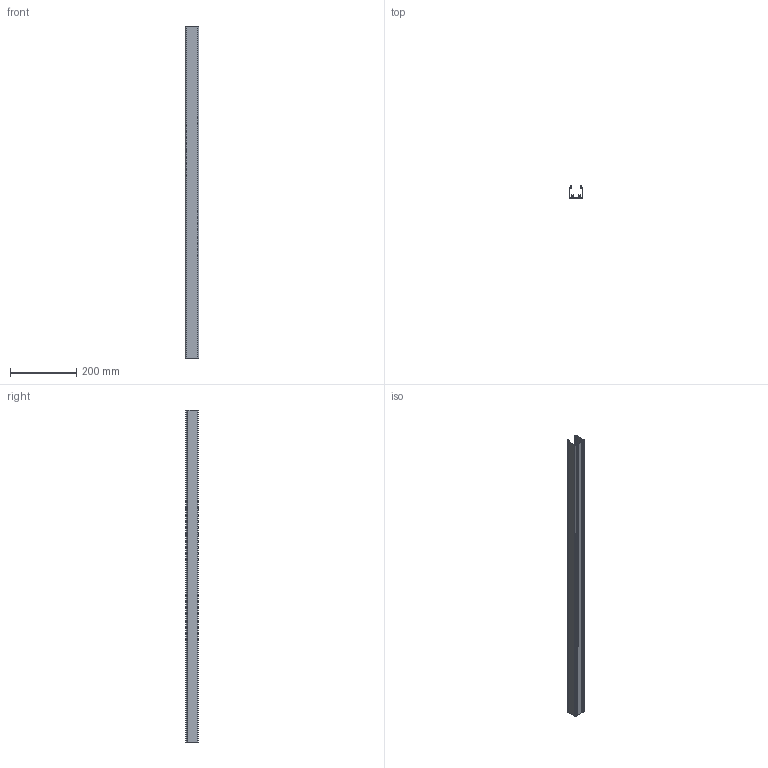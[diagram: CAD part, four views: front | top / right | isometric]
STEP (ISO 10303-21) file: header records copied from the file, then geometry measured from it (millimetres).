
FILE_DESCRIPTION (( 'STEP AP214' ), '1' );
FILE_NAME ('10253_KAB4040.STEP', '2016-05-03T12:04:25', ( '' ), ( '' ), 'SwSTEP 2.0', 'SolidWorks 2015', '' );
FILE_SCHEMA (( 'AUTOMOTIVE_DESIGN' ));
Length unit declared in the file: millimetre
Products named in the file (1): 10253_KAB4040
Bounding box: 40 x 38.3 x 1000 mm (x, y, z)
Volume: 251566.4 mm3; surface area: 316408.8 mm2
Topology: 1 solids, 1 shells, 144 faces, 426 edges, 284 vertices
Faces by surface type: plane 113, cylinder 31
Entity records: 4806 total; most frequent: CARTESIAN_POINT 855, ORIENTED_EDGE 852, DIRECTION 778, EDGE_CURVE 426, VECTOR 364, LINE 364, VERTEX_POINT 284, AXIS2_PLACEMENT_3D 207
